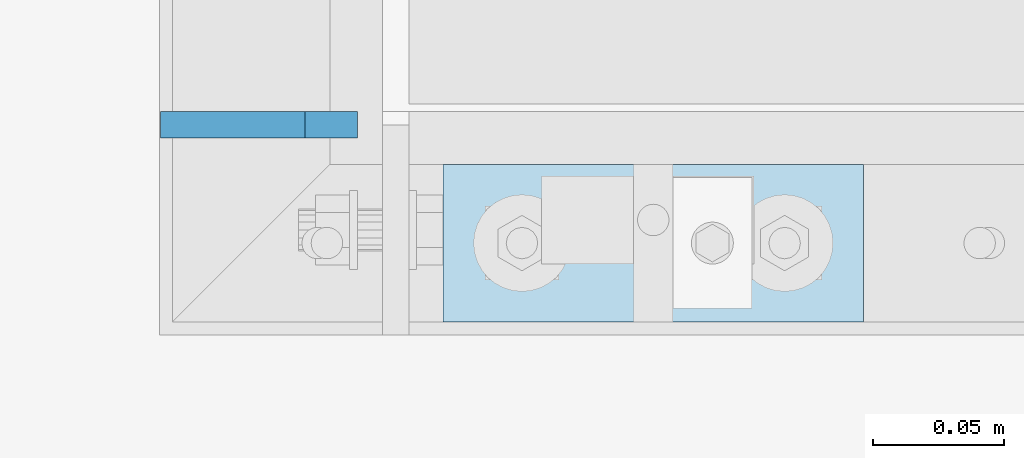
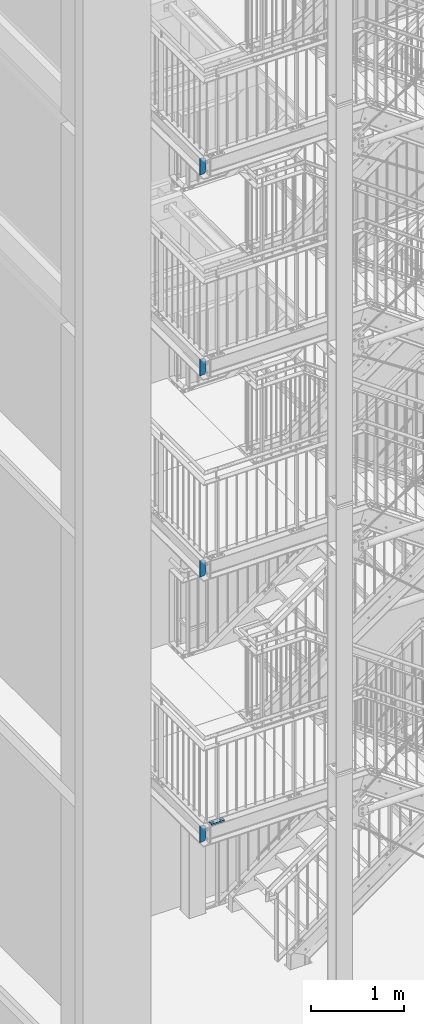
# One storey, part 148 of 831: 5 plates, 10 openings.
"""IFC2X3 building model written with IfcOpenShell, lengths in millimetres."""

from ifc_helpers import new_model, entity, si_unit, converted_unit, point, frame, frame_2d, origin, origin_with_axes, place, context, project, spatial, polyline, circle_curve, line_curve, trimmed, segment, composite_curve, outline, extrude, material, layer, layer_set, element, save


model = new_model("IFC2X3")

# Units and contexts
model_context = context("Model", 3, precision=1e-09, world=origin_with_axes())
ifc_project = project(units=[si_unit("LENGTHUNIT", "METRE", prefix="MILLI"), si_unit("AREAUNIT", "SQUARE_METRE"), si_unit("VOLUMEUNIT", "CUBIC_METRE"), converted_unit("PLANEANGLEUNIT", "DEGREE", entity("IfcPlaneAngleMeasure", 0.01745329), si_unit("PLANEANGLEUNIT", "RADIAN"), dimensions=[0, 0, 0, 0, 0, 0, 0])], contexts=[model_context])

# Site, building, storey
site_placement = place(None, origin_with_axes())
site = spatial("IfcSite", under=ifc_project, at=site_placement, Name="Site", CompositionType="ELEMENT")
building_placement = place(site_placement, origin_with_axes())
building = spatial("IfcBuilding", under=site, at=building_placement, Name="Struktur 1", CompositionType="ELEMENT")
storey_placement = place(building_placement, origin_with_axes())
storey = spatial("IfcBuildingStorey", under=building, at=storey_placement, Name="Default Storey", CompositionType="ELEMENT", Elevation=0.0)

# Plate, openings
ifc_material = material(Name="S235JR")
ifc_layer_1 = layer(ifc_material, 10.0)
ifc_layer_set_1 = layer_set([ifc_layer_1], Name="S235JR")
plate_1_placement = place(None, frame((3312.213402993, 4576.736971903, 3829.855161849), z_axis=(0.0, -1.0, 0.0), x_axis=(-0.996815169, 0.0, 0.079746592)))
plate_1 = element("IfcPlate", 1, at=plate_1_placement, inside=storey, material=ifc_layer_set_1, Name="Stiffener#1", ObjectType="Stiffener#1", context=model_context, shape_type="SweptSolid", body=[
    extrude(outline(polyline([(0.0, 0.0), (75.239625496, 0.0), (57.877952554, 217.017159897), (-16.404697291, 205.05517107), (0.0, 0.0)])), origin_with_axes(), (0.0, 0.0, 1.0), 10.0),
])
opening_1_placement = place(plate_1_placement, frame((0.0, 0.0, -0.01), z_axis=(0.0, 0.0, 1.0), x_axis=(1.0, 0.0, 0.0)))
element("IfcOpeningElement", 2, at=opening_1_placement, cuts=plate_1, ObjectType="Opening", context=model_context, shape_type="SweptSolid", body=[
    extrude(outline(polyline([(-16.404697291, 205.05517107), (-14.809765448, 185.118867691), (3.34092195, 208.23487558), (-16.404697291, 205.05517107)])), origin(), (0.0, 0.0, 1.0), 10.02),
])
opening_2_placement = place(plate_1_placement, frame((0.0, 0.0, -0.01), z_axis=(0.0, 0.0, 1.0), x_axis=(1.0, 0.0, 0.0)))
element("IfcOpeningElement", 3, at=opening_2_placement, cuts=plate_1, ObjectType="Opening", context=model_context, shape_type="SweptSolid", body=[
    extrude(outline(polyline([(0.0, 0.0), (20.0, 0.0), (-1.594931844, 19.936303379), (0.0, 0.0)])), origin(), (0.0, 0.0, 1.0), 10.02),
])

plate_2_placement = place(None, frame((3312.213402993, 4576.736971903, 7302.855161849), z_axis=(0.0, -1.0, 0.0), x_axis=(-0.996815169, 0.0, 0.079746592)))
plate_2 = element("IfcPlate", 4, at=plate_2_placement, inside=storey, material=ifc_layer_set_1, Name="Stiffener#1", ObjectType="Stiffener#1", context=model_context, shape_type="SweptSolid", body=[
    extrude(outline(polyline([(0.0, 0.0), (75.239625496, 0.0), (57.877952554, 217.017159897), (-16.404697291, 205.05517107), (0.0, 0.0)])), origin_with_axes(), (0.0, 0.0, 1.0), 10.0),
])
opening_3_placement = place(plate_2_placement, frame((0.0, 0.0, -0.01), z_axis=(0.0, 0.0, 1.0), x_axis=(1.0, 0.0, 0.0)))
element("IfcOpeningElement", 5, at=opening_3_placement, cuts=plate_2, ObjectType="Opening", context=model_context, shape_type="SweptSolid", body=[
    extrude(outline(polyline([(-16.404697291, 205.05517107), (-14.809765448, 185.118867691), (3.34092195, 208.23487558), (-16.404697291, 205.05517107)])), origin(), (0.0, 0.0, 1.0), 10.02),
])
opening_4_placement = place(plate_2_placement, frame((0.0, 0.0, -0.01), z_axis=(0.0, 0.0, 1.0), x_axis=(1.0, 0.0, 0.0)))
element("IfcOpeningElement", 6, at=opening_4_placement, cuts=plate_2, ObjectType="Opening", context=model_context, shape_type="SweptSolid", body=[
    extrude(outline(polyline([(0.0, 0.0), (20.0, 0.0), (-1.594931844, 19.936303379), (0.0, 0.0)])), origin(), (0.0, 0.0, 1.0), 10.02),
])

plate_3_placement = place(None, frame((3312.213402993, 4576.736971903, 9934.855161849), z_axis=(0.0, -1.0, 0.0), x_axis=(-0.996815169, 0.0, 0.079746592)))
plate_3 = element("IfcPlate", 7, at=plate_3_placement, inside=storey, material=ifc_layer_set_1, Name="Stiffener#1", ObjectType="Stiffener#1", context=model_context, shape_type="SweptSolid", body=[
    extrude(outline(polyline([(0.0, 0.0), (75.239625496, 0.0), (57.877952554, 217.017159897), (-16.404697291, 205.05517107), (0.0, 0.0)])), origin_with_axes(), (0.0, 0.0, 1.0), 10.0),
])
opening_5_placement = place(plate_3_placement, frame((0.0, 0.0, -0.01), z_axis=(0.0, 0.0, 1.0), x_axis=(1.0, 0.0, 0.0)))
element("IfcOpeningElement", 8, at=opening_5_placement, cuts=plate_3, ObjectType="Opening", context=model_context, shape_type="SweptSolid", body=[
    extrude(outline(polyline([(-16.404697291, 205.05517107), (-14.809765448, 185.118867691), (3.34092195, 208.23487558), (-16.404697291, 205.05517107)])), origin(), (0.0, 0.0, 1.0), 10.02),
])
opening_6_placement = place(plate_3_placement, frame((0.0, 0.0, -0.01), z_axis=(0.0, 0.0, 1.0), x_axis=(1.0, 0.0, 0.0)))
element("IfcOpeningElement", 9, at=opening_6_placement, cuts=plate_3, ObjectType="Opening", context=model_context, shape_type="SweptSolid", body=[
    extrude(outline(polyline([(0.0, 0.0), (20.0, 0.0), (-1.594931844, 19.936303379), (0.0, 0.0)])), origin(), (0.0, 0.0, 1.0), 10.02),
])

ifc_layer_2 = layer(ifc_material, 20.0)
ifc_layer_set_2 = layer_set([ifc_layer_2], Name="S235JR")
plate_4_placement = place(None, frame((3344.788520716, 4496.736971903, 3847.0), z_axis=(0.0, 0.0, 1.0), x_axis=(1.0, 0.0, 0.0)))
plate_4 = element("IfcPlate", 10, at=plate_4_placement, inside=storey, material=ifc_layer_set_2, Name="Plate#512", ObjectType="Plate#512", context=model_context, shape_type="SweptSolid", body=[
    extrude(outline(polyline([(0.0, 0.0), (160.0, 0.0), (160.0, 60.0), (0.0, 60.0), (0.0, 0.0)])), origin_with_axes(), (0.0, 0.0, 1.0), 20.0),
])
opening_7_placement = place(plate_4_placement, frame((38.0, 37.001, 20.5), z_axis=(0.0, 0.0, 1.0), x_axis=(-1.0, 0.0, 0.0)))
element("IfcOpeningElement", 11, at=opening_7_placement, cuts=plate_4, ObjectType="Opening", context=model_context, shape_type="SweptSolid", body=[
    extrude(outline(composite_curve([segment(trimmed(line_curve((0.0, 0.0), (1.0, 0.0), 16.0), [point((0.0, 0.0))], [point((16.0, 0.0))], True, "CARTESIAN"), True, "CONTINUOUS"), segment(trimmed(circle_curve(frame_2d((16.0, 7.001), x_axis=(1.0, 0.0)), 7.001), [point((16.0, 0.0))], [point((16.0, 14.002))], True, "CARTESIAN"), True, "CONTINUOUS"), segment(trimmed(line_curve((16.0, 14.002), (-1.0, 0.0), 16.0), [point((16.0, 14.002))], [point((0.0, 14.002))], True, "CARTESIAN"), True, "CONTINUOUS"), segment(trimmed(circle_curve(frame_2d((0.0, 7.001), x_axis=(1.0, 0.0)), 7.001), [point((0.0, 14.002))], [point((0.0, 0.0))], True, "CARTESIAN"), True, "CONTINUOUS")], self_intersect=False)), origin(), (0.0, 0.0, -1.0), 21.0),
])
opening_8_placement = place(plate_4_placement, frame((138.0, 37.001, 20.5), z_axis=(0.0, 0.0, 1.0), x_axis=(-1.0, 0.0, 0.0)))
element("IfcOpeningElement", 12, at=opening_8_placement, cuts=plate_4, ObjectType="Opening", context=model_context, shape_type="SweptSolid", body=[
    extrude(outline(composite_curve([segment(trimmed(line_curve((0.0, 0.0), (1.0, 0.0), 16.0), [point((0.0, 0.0))], [point((16.0, 0.0))], True, "CARTESIAN"), True, "CONTINUOUS"), segment(trimmed(circle_curve(frame_2d((16.0, 7.001), x_axis=(1.0, 0.0)), 7.001), [point((16.0, 0.0))], [point((16.0, 14.002))], True, "CARTESIAN"), True, "CONTINUOUS"), segment(trimmed(line_curve((16.0, 14.002), (-1.0, 0.0), 16.0), [point((16.0, 14.002))], [point((0.0, 14.002))], True, "CARTESIAN"), True, "CONTINUOUS"), segment(trimmed(circle_curve(frame_2d((0.0, 7.001), x_axis=(1.0, 0.0)), 7.001), [point((0.0, 14.002))], [point((0.0, 0.0))], True, "CARTESIAN"), True, "CONTINUOUS")], self_intersect=False)), origin(), (0.0, 0.0, -1.0), 21.0),
])

plate_5_placement = place(None, frame((3312.213402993, 4576.736971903, 12561.855161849), z_axis=(0.0, -1.0, 0.0), x_axis=(-0.996815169, 0.0, 0.079746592)))
plate_5 = element("IfcPlate", 13, at=plate_5_placement, inside=storey, material=ifc_layer_set_1, Name="Stiffener#1", ObjectType="Stiffener#1", context=model_context, shape_type="SweptSolid", body=[
    extrude(outline(polyline([(0.0, 0.0), (75.239625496, 0.0), (57.877952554, 217.017159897), (-16.404697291, 205.05517107), (0.0, 0.0)])), origin_with_axes(), (0.0, 0.0, 1.0), 10.0),
])
opening_9_placement = place(plate_5_placement, frame((0.0, 0.0, -0.01), z_axis=(0.0, 0.0, 1.0), x_axis=(1.0, 0.0, 0.0)))
element("IfcOpeningElement", 14, at=opening_9_placement, cuts=plate_5, ObjectType="Opening", context=model_context, shape_type="SweptSolid", body=[
    extrude(outline(polyline([(-16.404697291, 205.05517107), (-14.809765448, 185.118867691), (3.34092195, 208.23487558), (-16.404697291, 205.05517107)])), origin(), (0.0, 0.0, 1.0), 10.02),
])
opening_10_placement = place(plate_5_placement, frame((0.0, 0.0, -0.01), z_axis=(0.0, 0.0, 1.0), x_axis=(1.0, 0.0, 0.0)))
element("IfcOpeningElement", 15, at=opening_10_placement, cuts=plate_5, ObjectType="Opening", context=model_context, shape_type="SweptSolid", body=[
    extrude(outline(polyline([(0.0, 0.0), (20.0, 0.0), (-1.594931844, 19.936303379), (0.0, 0.0)])), origin(), (0.0, 0.0, 1.0), 10.02),
])

save(model, "model.ifc")
